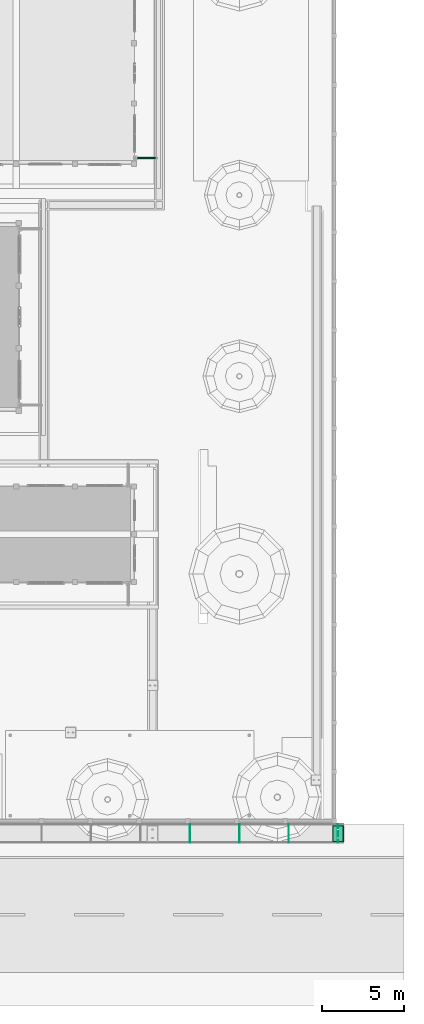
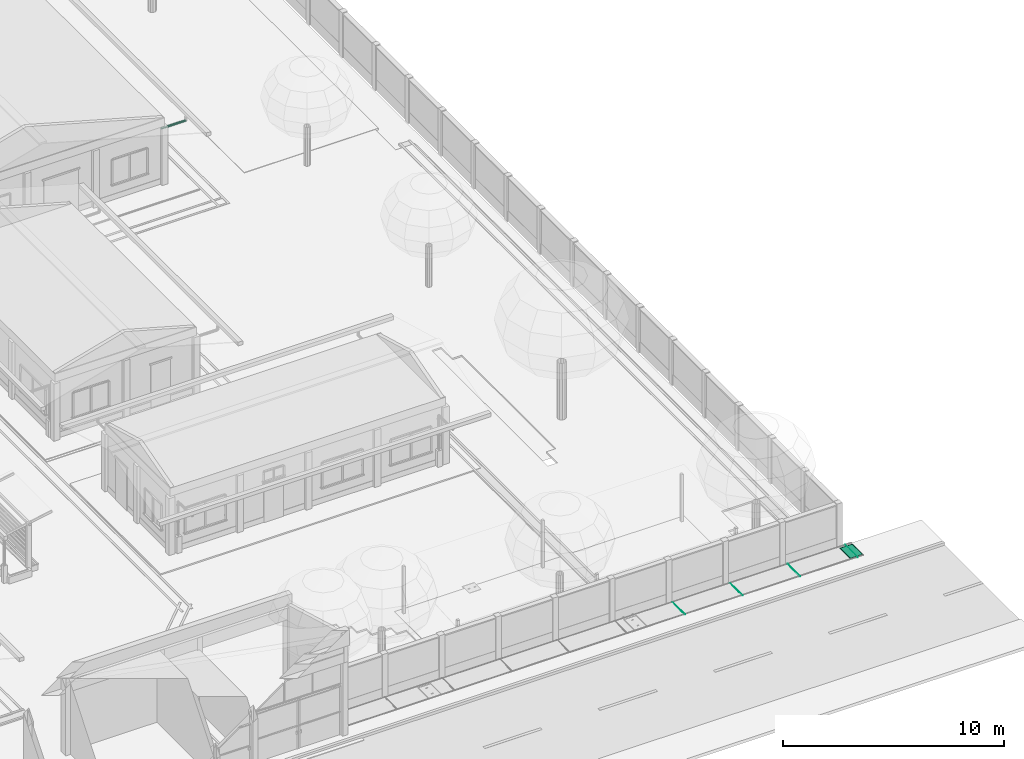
# One storey, part 103 of 177: 5 pipe segments, 2 distribution chamber elements.
"""IFC4 building model written with IfcOpenShell, lengths in metres."""

from ifc_helpers import new_model, si_unit, origin, origin_with_axes, place, context, subcontext, project, spatial, triangles, element, save


model = new_model("IFC4")

# Units and contexts
model_context = context("Model", 3, precision=1e-05, world=origin_with_axes())
body_context = subcontext(model_context, "Body", "Model", "MODEL_VIEW")
ifc_project = project(units=[si_unit("LENGTHUNIT", "METRE"), si_unit("AREAUNIT", "SQUARE_METRE"), si_unit("VOLUMEUNIT", "CUBIC_METRE"), si_unit("PLANEANGLEUNIT", "RADIAN")], contexts=[model_context])

# Site, building, storey
site_placement = place(None, origin_with_axes())
site = spatial("IfcSite", under=ifc_project, at=site_placement, Name="Predio Los Mangos - Morales, San Martín", CompositionType="ELEMENT")
building_placement = place(site_placement, origin())
building = spatial("IfcBuilding", under=site, at=building_placement, Name="Hogar de Refugio Temporal", CompositionType="ELEMENT")
storey_placement = place(building_placement, origin())
storey = spatial("IfcBuildingStorey", under=building, at=storey_placement, Name="NIVEL 1 (NPT +0.00)", CompositionType="ELEMENT", Elevation=0.0)

# Pipe segments
pipe_segment_1_placement = place(storey_placement, origin())
element("IfcPipeSegment", 1, at=pipe_segment_1_placement, inside=storey, Name="montante_desvio", ObjectType="Montante PVC 4\"", PredefinedType="RIGIDSEGMENT", context=body_context, shape_type="Tessellation", body=[
    triangles([(60.98, 58.25, 2.965), (59.69, 58.25, 2.965), (60.98, 58.2225, 2.9576), (59.69, 58.2225, 2.9576), (60.98, 58.2024, 2.9375), (59.69, 58.2024, 2.9375), (60.98, 58.195, 2.91), (59.69, 58.195, 2.91), (60.98, 58.2024, 2.8825), (59.69, 58.2024, 2.8825), (60.98, 58.2225, 2.8624), (59.69, 58.2225, 2.8624), (60.98, 58.25, 2.855), (59.69, 58.25, 2.855), (60.98, 58.2775, 2.8624), (59.69, 58.2775, 2.8624), (60.98, 58.2976, 2.8825), (59.69, 58.2976, 2.8825), (60.98, 58.305, 2.91), (59.69, 58.305, 2.91), (60.98, 58.2976, 2.9375), (59.69, 58.2976, 2.9375), (60.98, 58.2775, 2.9576), (59.69, 58.2775, 2.9576)], [[1, 2, 4], [1, 4, 3], [3, 4, 6], [3, 6, 5], [5, 6, 8], [5, 8, 7], [7, 8, 10], [7, 10, 9], [9, 10, 12], [9, 12, 11], [11, 12, 14], [11, 14, 13], [13, 14, 16], [13, 16, 15], [15, 16, 18], [15, 18, 17], [17, 18, 20], [17, 20, 19], [19, 20, 22], [19, 22, 21], [6, 4, 2], [2, 24, 22], [22, 20, 18], [18, 16, 14], [14, 12, 10], [10, 8, 6], [6, 2, 22], [22, 18, 14], [14, 10, 6], [22, 14, 6], [21, 22, 24], [21, 24, 23], [23, 24, 2], [23, 2, 1], [23, 1, 3], [3, 5, 7], [7, 9, 11], [11, 13, 15], [15, 17, 19], [19, 21, 23], [23, 3, 7], [7, 11, 15], [15, 19, 23], [7, 15, 23]]),
])
pipe_segment_2_placement = place(storey_placement, origin())
element("IfcPipeSegment", 2, at=pipe_segment_2_placement, inside=storey, Name="junta_losa", ObjectType="Colector frontal b=0.80 (losa-vereda)", PredefinedType="CULVERT", context=body_context, shape_type="Tessellation", body=[
    triangles([(71.9873, 16.665, 0.15), (72.0127, 16.665, 0.15), (72.0127, 17.79, 0.15), (71.9873, 17.79, 0.15), (71.9873, 16.665, 0.1635), (72.0127, 16.665, 0.1635), (72.0127, 17.79, 0.1635), (71.9873, 17.79, 0.1635)], [[1, 4, 3], [1, 3, 2], [5, 6, 7], [5, 7, 8], [1, 2, 6], [1, 6, 5], [2, 3, 7], [2, 7, 6], [3, 4, 8], [3, 8, 7], [4, 1, 5], [4, 5, 8]]),
])
pipe_segment_3_placement = place(storey_placement, origin())
element("IfcPipeSegment", 3, at=pipe_segment_3_placement, inside=storey, Name="junta_losa", ObjectType="Colector frontal b=0.80 (losa-vereda)", PredefinedType="CULVERT", context=body_context, shape_type="Tessellation", body=[
    triangles([(68.9873, 16.665, 0.15), (69.0127, 16.665, 0.15), (69.0127, 17.79, 0.15), (68.9873, 17.79, 0.15), (68.9873, 16.665, 0.1635), (69.0127, 16.665, 0.1635), (69.0127, 17.79, 0.1635), (68.9873, 17.79, 0.1635)], [[1, 4, 3], [1, 3, 2], [5, 6, 7], [5, 7, 8], [1, 2, 6], [1, 6, 5], [2, 3, 7], [2, 7, 6], [3, 4, 8], [3, 8, 7], [4, 1, 5], [4, 5, 8]]),
])
pipe_segment_4_placement = place(storey_placement, origin())
element("IfcPipeSegment", 4, at=pipe_segment_4_placement, inside=storey, Name="junta_losa", ObjectType="Colector frontal b=0.80 (losa-vereda)", PredefinedType="CULVERT", context=body_context, shape_type="Tessellation", body=[
    triangles([(65.9873, 16.665, 0.15), (66.0127, 16.665, 0.15), (66.0127, 17.79, 0.15), (65.9873, 17.79, 0.15), (65.9873, 16.665, 0.1635), (66.0127, 16.665, 0.1635), (66.0127, 17.79, 0.1635), (65.9873, 17.79, 0.1635)], [[1, 4, 3], [1, 3, 2], [5, 6, 7], [5, 7, 8], [1, 2, 6], [1, 6, 5], [2, 3, 7], [2, 7, 6], [3, 4, 8], [3, 8, 7], [4, 1, 5], [4, 5, 8]]),
])
pipe_segment_5_placement = place(storey_placement, origin())
element("IfcPipeSegment", 5, at=pipe_segment_5_placement, inside=storey, Name="junta_losa", ObjectType="Colector frontal b=0.80 (losa-vereda)", PredefinedType="CULVERT", context=body_context, shape_type="Tessellation", body=[
    triangles([(62.9873, 16.665, 0.15), (63.0127, 16.665, 0.15), (63.0127, 17.79, 0.15), (62.9873, 17.79, 0.15), (62.9873, 16.665, 0.1635), (63.0127, 16.665, 0.1635), (63.0127, 17.79, 0.1635), (62.9873, 17.79, 0.1635)], [[1, 4, 3], [1, 3, 2], [5, 6, 7], [5, 7, 8], [1, 2, 6], [1, 6, 5], [2, 3, 7], [2, 7, 6], [3, 4, 8], [3, 8, 7], [4, 1, 5], [4, 5, 8]]),
])

# Distribution chamber elements
distribution_chamber_element_1_placement = place(storey_placement, origin())
element("IfcDistributionChamberElement", 6, at=distribution_chamber_element_1_placement, inside=storey, Name="tapa_junta", ObjectType="Tapa ciega de registro del colector", PredefinedType="INSPECTIONCHAMBER", context=body_context, shape_type="Tessellation", body=[
    triangles([(71.655, 16.72, 0.161), (72.345, 16.72, 0.161), (72.345, 17.71, 0.161), (71.655, 17.71, 0.161), (71.655, 16.72, 0.164), (72.345, 16.72, 0.164), (72.345, 17.71, 0.164), (71.655, 17.71, 0.164)], [[1, 4, 3], [1, 3, 2], [5, 6, 7], [5, 7, 8], [1, 2, 6], [1, 6, 5], [2, 3, 7], [2, 7, 6], [3, 4, 8], [3, 8, 7], [4, 1, 5], [4, 5, 8]]),
])
distribution_chamber_element_2_placement = place(storey_placement, origin())
element("IfcDistributionChamberElement", 7, at=distribution_chamber_element_2_placement, inside=storey, Name="tapa_ciega", ObjectType="Tapa ciega de registro del colector", PredefinedType="INSPECTIONCHAMBER", context=body_context, shape_type="Tessellation", body=[
    triangles([(71.69, 16.755, 0.161), (72.31, 16.755, 0.161), (72.31, 17.675, 0.161), (71.69, 17.675, 0.161), (71.69, 16.755, 0.17), (72.31, 16.755, 0.17), (72.31, 17.675, 0.17), (71.69, 17.675, 0.17)], [[1, 4, 3], [1, 3, 2], [5, 6, 7], [5, 7, 8], [1, 2, 6], [1, 6, 5], [2, 3, 7], [2, 7, 6], [3, 4, 8], [3, 8, 7], [4, 1, 5], [4, 5, 8]]),
])

save(model, "model.ifc")
